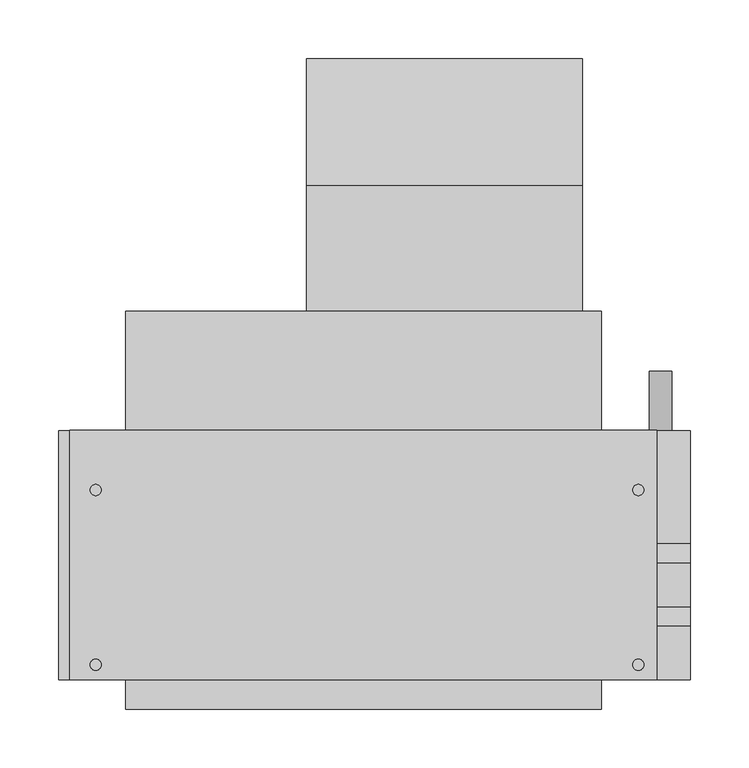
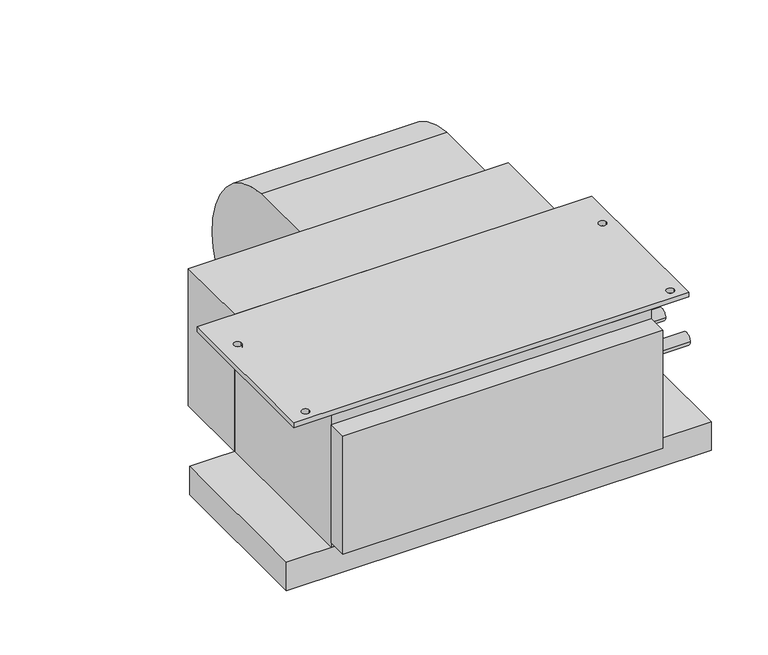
"""IFC4 building model written with IfcOpenShell, lengths in millimetres: proxy geometry, Concealed_Horizontal_Fan_Coil_Unit_-_42CAA_-_CARRIER_-_2-Pipe_Cool-EHeat_RH_2022 : Size 02 - 277v/60Hz/1Ph - 4 Row 2.0kW."""

from ifc_helpers import new_model, si_unit, point, frame, frame_2d, origin, place, context, project, spatial, polyline, circle_curve, trimmed, segment, composite_curve, outline, extrude, source, transform, mapped, element, save


def mechanical_equipment_4d4a7879(model_context):
    return source(origin(), model_context, "Body", "SweptSolid", [
        extrude(outline(composite_curve([segment(trimmed(circle_curve(frame_2d((68.401169, -136.0299844)), 117.3559541), [point((77.7875, -19.05))], [point((185.7375, -138.176))], False, "CARTESIAN"), True, "CONTINUOUS"), segment(trimmed(circle_curve(frame_2d((90.0022663, -136.4250563)), 95.7512443), [point((185.7375, -138.176))], [point((77.7875, -231.394))], False, "CARTESIAN"), True, "CONTINUOUS"), segment(trimmed(circle_curve(frame_2d((89.9711869, -136.6666968)), 95.5076133), [point((77.7875, -231.394))], [point((-5.5245, -138.176))], False, "CARTESIAN"), True, "CONTINUOUS"), segment(trimmed(circle_curve(frame_2d((-24.6059828, -138.4775816)), 19.0838659), [point((-5.5245, -138.176))], [point((-17.7963373, -120.65))], True, "CARTESIAN"), True, "CONTINUOUS"), segment(polyline([(-17.7963373, -120.65), (-30.1625, -120.65), (-30.1625, -19.05), (77.7875, -19.05)]), True, "CONTINUOUS")], self_intersect=False)), frame((104.013, 0.0, 0.0), z_axis=(1.0, 0.0, 0.0), x_axis=(0.0, 1.0, 0.0)), (0.0, 0.0, 1.0), 235.712),
        extrude(outline(polyline([(403.225, -131.7625), (403.225, -344.4875), (-98.425, -344.4875), (-98.425, -131.7625), (403.225, -131.7625)]), holes=[composite_curve([segment(trimmed(circle_curve(frame_2d((-76.2, -182.5625)), 4.7625), [point((-80.9625, -182.5625))], [point((-71.4375, -182.5625))], True, "CARTESIAN"), True, "CONTINUOUS"), segment(trimmed(circle_curve(frame_2d((-76.2, -182.5625)), 4.7625), [point((-71.4375, -182.5625))], [point((-80.9625, -182.5625))], True, "CARTESIAN"), True, "CONTINUOUS")], self_intersect=False), composite_curve([segment(trimmed(circle_curve(frame_2d((-76.2, -331.7875)), 4.7625), [point((-80.9625, -331.7875))], [point((-71.4375, -331.7875))], True, "CARTESIAN"), True, "CONTINUOUS"), segment(trimmed(circle_curve(frame_2d((-76.2, -331.7875)), 4.7625), [point((-71.4375, -331.7875))], [point((-80.9625, -331.7875))], True, "CARTESIAN"), True, "CONTINUOUS")], self_intersect=False), composite_curve([segment(trimmed(circle_curve(frame_2d((387.35, -182.5625)), 4.7625), [point((382.5875, -182.5625))], [point((392.1125, -182.5625))], True, "CARTESIAN"), True, "CONTINUOUS"), segment(trimmed(circle_curve(frame_2d((387.35, -182.5625)), 4.7625), [point((392.1125, -182.5625))], [point((382.5875, -182.5625))], True, "CARTESIAN"), True, "CONTINUOUS")], self_intersect=False), composite_curve([segment(trimmed(circle_curve(frame_2d((387.35, -331.7875)), 4.7625), [point((382.5875, -331.7875))], [point((392.1125, -331.7875))], True, "CARTESIAN"), True, "CONTINUOUS"), segment(trimmed(circle_curve(frame_2d((387.35, -331.7875)), 4.7625), [point((392.1125, -331.7875))], [point((382.5875, -331.7875))], True, "CARTESIAN"), True, "CONTINUOUS")], self_intersect=False)]), frame((0.0, 0.0, -6.35), z_axis=(0.0, 0.0, 1.0), x_axis=(1.0, 0.0, 0.0)), (0.0, 0.0, 1.0), 6.35),
        extrude(outline(polyline([(-50.8, -30.1625), (355.6, -30.1625), (355.6, -131.7625), (-50.8, -131.7625), (-50.8, -30.1625)])), frame((0.0, 0.0, -184.15), z_axis=(0.0, 0.0, 1.0), x_axis=(1.0, 0.0, 0.0)), (0.0, 0.0, 1.0), 184.15),
        extrude(outline(composite_curve([segment(trimmed(circle_curve(frame_2d((-209.55, 406.4)), 9.525), [point((-209.55, 396.875))], [point((-209.55, 415.925))], False, "CARTESIAN"), True, "CONTINUOUS"), segment(trimmed(circle_curve(frame_2d((-209.55, 406.4)), 9.525), [point((-209.55, 415.925))], [point((-209.55, 396.875))], False, "CARTESIAN"), True, "CONTINUOUS")], self_intersect=False)), frame((0.0, -131.7625, 0.0), z_axis=(0.0, 1.0, 0.0), x_axis=(0.0, 0.0, 1.0)), (0.0, 0.0, 1.0), 50.8),
        extrude(outline(polyline([(355.6, -369.8875), (-50.8, -369.8875), (-50.8, -344.4875), (355.6, -344.4875), (355.6, -369.8875)])), frame((0.0, 0.0, -177.8), z_axis=(0.0, 0.0, 1.0), x_axis=(1.0, 0.0, 0.0)), (0.0, 0.0, 1.0), 158.75),
        extrude(outline(polyline([(431.8, -131.7625), (431.8, -344.4875), (-107.95, -344.4875), (-107.95, -131.7625), (431.8, -131.7625)])), frame((0.0, 0.0, -222.25), z_axis=(0.0, 0.0, 1.0), x_axis=(1.0, 0.0, 0.0)), (0.0, 0.0, 1.0), 38.1),
        extrude(outline(composite_curve([segment(trimmed(circle_curve(frame_2d((-290.5125, -104.775)), 7.9375), [point((-298.45, -104.775))], [point((-282.575, -104.775))], False, "CARTESIAN"), True, "CONTINUOUS"), segment(trimmed(circle_curve(frame_2d((-290.5125, -104.775)), 7.9375), [point((-282.575, -104.775))], [point((-298.45, -104.775))], False, "CARTESIAN"), True, "CONTINUOUS")], self_intersect=False)), frame((355.6, 0.0, 0.0), z_axis=(1.0, 0.0, 0.0), x_axis=(0.0, 1.0, 0.0)), (0.0, 0.0, 1.0), 76.2),
        extrude(outline(composite_curve([segment(trimmed(circle_curve(frame_2d((-236.5375, -104.775)), 7.9375), [point((-244.475, -104.775))], [point((-228.6, -104.775))], False, "CARTESIAN"), True, "CONTINUOUS"), segment(trimmed(circle_curve(frame_2d((-236.5375, -104.775)), 7.9375), [point((-228.6, -104.775))], [point((-244.475, -104.775))], False, "CARTESIAN"), True, "CONTINUOUS")], self_intersect=False)), frame((355.6, 0.0, 0.0), z_axis=(1.0, 0.0, 0.0), x_axis=(0.0, 1.0, 0.0)), (0.0, 0.0, 1.0), 76.2),
        extrude(outline(polyline([(355.6, -344.4875), (-50.8, -344.4875), (-50.8, -131.7625), (355.6, -131.7625), (355.6, -344.4875)])), frame((0.0, 0.0, -184.15), z_axis=(0.0, 0.0, 1.0), x_axis=(1.0, 0.0, 0.0)), (0.0, 0.0, 1.0), 177.8),
    ])


if __name__ == "__main__":
    model = new_model("IFC4")
    model_context = context("Model", 3, world=origin())
    ifc_project = project(units=[si_unit("LENGTHUNIT", "METRE", prefix="MILLI")], contexts=[model_context])
    site = spatial("IfcSite", under=ifc_project)
    building = spatial("IfcBuilding", under=site)
    placement = place(None, origin())
    mechanical_equipment_shape = mechanical_equipment_4d4a7879(model_context)
    element("IfcBuildingElementProxy", 1, Name="Concealed_Horizontal_Fan_Coil_Unit_-_42CAA_-_CARRIER_-_2-Pipe_Cool-EHeat_RH_2022 : Size 02 - 277v/60Hz/1Ph - 4 Row 2.0kW", ObjectType="Concealed_Horizontal_Fan_Coil_Unit_-_42CAA_-_CARRIER_-_2-Pipe_Cool-EHeat_RH_2022 : Size 02 - 277v/60Hz/1Ph - 4 Row 2.0kW", at=placement, inside=building, context=model_context, shape_type="MappedRepresentation", body=[
        mapped(mechanical_equipment_shape, transform((0.0, 0.0, 0.0), x_axis=(1.0, 0.0, 0.0), y_axis=(0.0, 1.0, 0.0), z_axis=(0.0, 0.0, 1.0))),
    ])
    save(model, "model.ifc")
